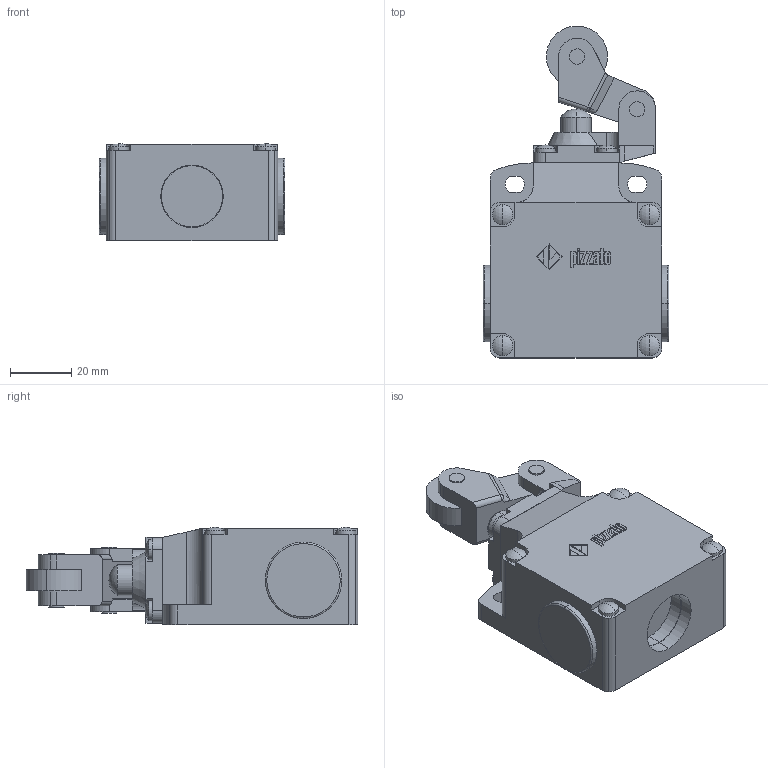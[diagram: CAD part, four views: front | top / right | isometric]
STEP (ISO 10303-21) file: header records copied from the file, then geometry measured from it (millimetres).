
FILE_DESCRIPTION (( 'STEP AP214' ), '1' );
FILE_NAME ('ZF_STEP_FL_x02_A10.step', '2014-04-10T09:03:47', ( 'utente' ), ( 'Microsoft' ), 'SwSTEP 2.0', 'SolidWorks 2013', '' );
FILE_SCHEMA (( 'AUTOMOTIVE_DESIGN' ));
Length unit declared in the file: millimetre
Products named in the file (7): ZF_STEP_VF_T02_A10; Pizzato_Pistoncino_T01; Pizzato_Leva_T02_LEVA_T02; Pizzato_Supporto_T02_Supporto_T02; Pizzato_Tappo_Protezione_PG13_M20_PG13; Pizzato_Custodia_FL; ZF_STEP_FL_x02_A10
Assembly tree (7 placements, depth 3):
  ZF_STEP_FL_x02_A10
    Pizzato_Custodia_FL
    Pizzato_Tappo_Protezione_PG13_M20_PG13  x2
    ZF_STEP_VF_T02_A10
      Pizzato_Supporto_T02_Supporto_T02
      Pizzato_Leva_T02_LEVA_T02
      Pizzato_Pistoncino_T01
Bounding box: 60.8 x 108.52 x 31.8 mm (x, y, z)
Volume: 117199.3 mm3; surface area: 28635.6 mm2
Topology: 6 solids, 6 shells, 507 faces, 1305 edges, 861 vertices
Faces by surface type: plane 287, cylinder 122, bspline 73, sphere 20, torus 4, cone 1
Entity records: 18795 total; most frequent: CARTESIAN_POINT 6638, ORIENTED_EDGE 2574, DIRECTION 2251, EDGE_CURVE 1287, VECTOR 875, LINE 875, VERTEX_POINT 851, AXIS2_PLACEMENT_3D 688
